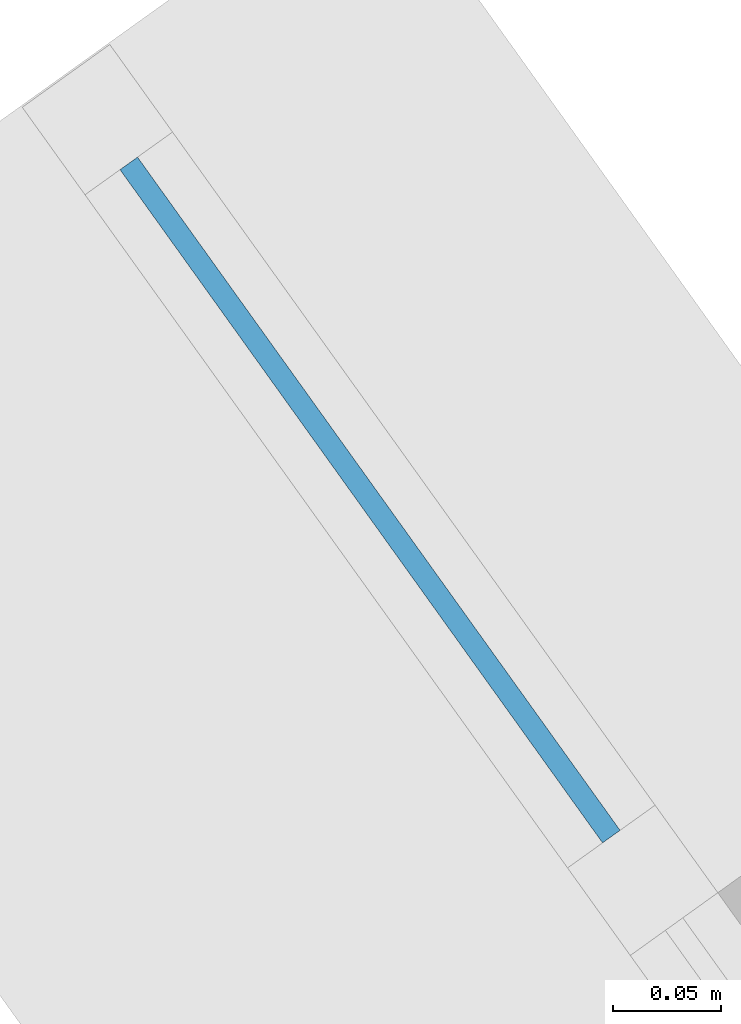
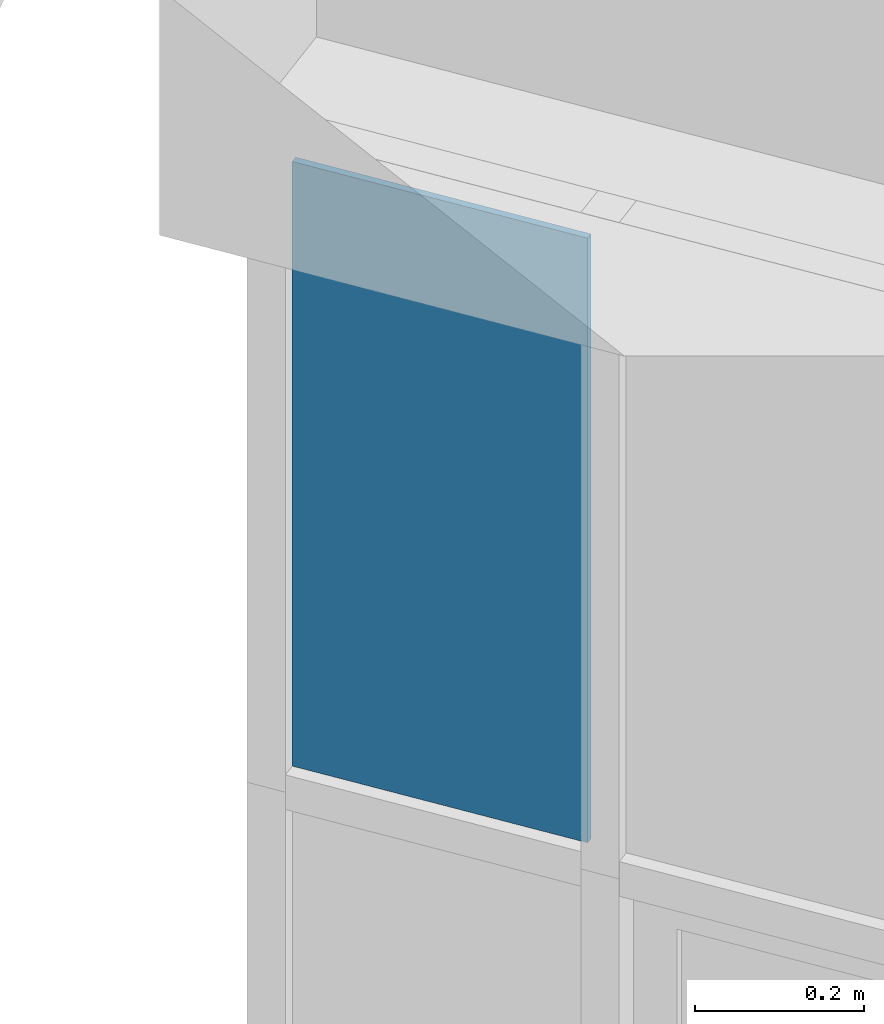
# One storey, part 10 of 24: 1 plate, 1 element without a shape of its own.
"""IFC2X3 building model written with IfcOpenShell, lengths in millimetres."""

from ifc_helpers import new_model, entity, si_unit, converted_unit, derived_unit, direction, frame, frame_2d, origin, place, context, subcontext, project, spatial, rectangle, extrude, source, transform, mapped, material, type_object, type_shapes, element, aggregate, save


model = new_model("IFC2X3")

# Units and contexts
model_context = context("Model", 3, precision=0.01, world=origin(), true_north=direction((6.123031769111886e-17, 1.0)))
body_context = subcontext(model_context, "Body", "Model", "MODEL_VIEW")
ifc_project = project(units=[si_unit("LENGTHUNIT", "METRE", prefix="MILLI"), si_unit("AREAUNIT", "SQUARE_METRE"), si_unit("VOLUMEUNIT", "CUBIC_METRE"), converted_unit("PLANEANGLEUNIT", "DEGREE", entity("IfcRatioMeasure", 0.017453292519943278), si_unit("PLANEANGLEUNIT", "RADIAN"), dimensions=[0, 0, 0, 0, 0, 0, 0]), si_unit("MASSUNIT", "GRAM", prefix="KILO"), derived_unit("MASSDENSITYUNIT", [(si_unit("MASSUNIT", "GRAM", prefix="KILO"), 1), (si_unit("LENGTHUNIT", "METRE"), -3)]), derived_unit("MOMENTOFINERTIAUNIT", [(si_unit("LENGTHUNIT", "METRE"), 4)]), si_unit("TIMEUNIT", "SECOND"), si_unit("FREQUENCYUNIT", "HERTZ"), si_unit("THERMODYNAMICTEMPERATUREUNIT", "DEGREE_CELSIUS"), derived_unit("THERMALTRANSMITTANCEUNIT", [(si_unit("MASSUNIT", "GRAM", prefix="KILO"), 1), (si_unit("THERMODYNAMICTEMPERATUREUNIT", "KELVIN"), -1), (si_unit("TIMEUNIT", "SECOND"), -3)]), derived_unit("THERMALCONDUCTANCEUNIT", [(si_unit("MASSUNIT", "GRAM", prefix="KILO"), 1), (si_unit("LENGTHUNIT", "METRE"), 1), (si_unit("THERMODYNAMICTEMPERATUREUNIT", "KELVIN"), -1), (si_unit("TIMEUNIT", "SECOND"), -3)]), derived_unit("VOLUMETRICFLOWRATEUNIT", [(si_unit("LENGTHUNIT", "METRE"), 3), (si_unit("TIMEUNIT", "SECOND"), -1)]), derived_unit("MASSFLOWRATEUNIT", [(si_unit("MASSUNIT", "GRAM", prefix="KILO"), 1), (si_unit("TIMEUNIT", "SECOND"), -1)]), derived_unit("ROTATIONALFREQUENCYUNIT", [(si_unit("TIMEUNIT", "SECOND"), -1)]), si_unit("ELECTRICCURRENTUNIT", "AMPERE"), si_unit("ELECTRICVOLTAGEUNIT", "VOLT"), si_unit("POWERUNIT", "WATT"), converted_unit("FORCEUNIT", "KIP", entity("IfcRatioMeasure", 2.088543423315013e-05), si_unit("FORCEUNIT", "NEWTON"), dimensions=[1, 1, -2, 0, 0, 0, 0]), si_unit("ILLUMINANCEUNIT", "LUX"), si_unit("LUMINOUSFLUXUNIT", "LUMEN"), si_unit("LUMINOUSINTENSITYUNIT", "CANDELA"), derived_unit("USERDEFINED", [(si_unit("MASSUNIT", "GRAM", prefix="KILO"), -1), (si_unit("LENGTHUNIT", "METRE"), -2), (si_unit("TIMEUNIT", "SECOND"), 3), (si_unit("LUMINOUSFLUXUNIT", "LUMEN"), 1)]), derived_unit("USERDEFINED", [(si_unit("MASSUNIT", "GRAM", prefix="KILO"), 1), (si_unit("LENGTHUNIT", "METRE"), 3), (si_unit("TIMEUNIT", "SECOND"), -3), (si_unit("ELECTRICCURRENTUNIT", "AMPERE"), -2)]), derived_unit("USERDEFINED", [(si_unit("LENGTHUNIT", "METRE"), 2), (si_unit("TIMEUNIT", "SECOND"), -2)]), derived_unit("SOUNDPOWERUNIT", [(si_unit("MASSUNIT", "GRAM", prefix="KILO"), 1), (si_unit("LENGTHUNIT", "METRE"), 2), (si_unit("TIMEUNIT", "SECOND"), -3)]), derived_unit("SOUNDPRESSUREUNIT", [(si_unit("MASSUNIT", "GRAM", prefix="KILO"), 1), (si_unit("LENGTHUNIT", "METRE"), -1), (si_unit("TIMEUNIT", "SECOND"), -2)]), derived_unit("LINEARVELOCITYUNIT", [(si_unit("LENGTHUNIT", "METRE"), 1), (si_unit("TIMEUNIT", "SECOND"), -1)]), si_unit("PRESSUREUNIT", "PASCAL"), derived_unit("USERDEFINED", [(si_unit("LENGTHUNIT", "METRE"), -2), (si_unit("MASSUNIT", "GRAM", prefix="KILO"), 1), (si_unit("TIMEUNIT", "SECOND"), -2)]), derived_unit("LINEARFORCEUNIT", [(si_unit("MASSUNIT", "GRAM", prefix="KILO"), 1), (si_unit("LENGTHUNIT", "METRE"), 1), (si_unit("TIMEUNIT", "SECOND"), -2), (si_unit("LENGTHUNIT", "METRE"), -1)]), derived_unit("PLANARFORCEUNIT", [(si_unit("MASSUNIT", "GRAM", prefix="KILO"), 1), (si_unit("LENGTHUNIT", "METRE"), 1), (si_unit("TIMEUNIT", "SECOND"), -2), (si_unit("LENGTHUNIT", "METRE"), -2)]), derived_unit("SPECIFICHEATCAPACITYUNIT", [(si_unit("LENGTHUNIT", "METRE"), 2), (si_unit("TIMEUNIT", "SECOND"), -2), (si_unit("THERMODYNAMICTEMPERATUREUNIT", "KELVIN"), -1)]), derived_unit("VAPORPERMEABILITYUNIT", [(si_unit("TIMEUNIT", "SECOND"), 1), (si_unit("LENGTHUNIT", "METRE"), -1)]), derived_unit("DYNAMICVISCOSITYUNIT", [(si_unit("MASSUNIT", "GRAM", prefix="KILO"), 1), (si_unit("LENGTHUNIT", "METRE"), -1), (si_unit("TIMEUNIT", "SECOND"), -1)]), derived_unit("THERMALEXPANSIONCOEFFICIENTUNIT", [(si_unit("THERMODYNAMICTEMPERATUREUNIT", "KELVIN"), -1)])], contexts=[model_context])

# Site, building, storey
site_placement = place(None, frame((0.0, 0.0, 0.0), z_axis=(0.0, 0.0, 1.0), x_axis=(0.8191520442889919, 0.5735764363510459, 0.0)))
site = spatial("IfcSite", under=ifc_project, at=site_placement, Name="Default", CompositionType="ELEMENT")
building_placement = place(site_placement, origin())
building = spatial("IfcBuilding", under=site, at=building_placement, CompositionType="ELEMENT")
storey_placement = place(building_placement, frame((0.0, 0.0, -1150.0)))
storey = spatial("IfcBuildingStorey", under=building, at=storey_placement, Name="6.EG KH -1.15", CompositionType="ELEMENT", Elevation=-1150.0000000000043)

# Curtain wall, plate
curtain_wall_type = type_object("IfcCurtainWallType", Name="Curtain Wall:Curtain_Wall_CJC_ENTR_KH", PredefinedType="NOTDEFINED")
curtain_wall_placement = place(storey_placement, frame((0.0, 0.0, 1150.0)))
curtain_wall = element("IfcCurtainWall", 1, at=curtain_wall_placement, inside=storey, type_object=curtain_wall_type, Name="Curtain Wall:Curtain_Wall_CJC_ENTR_KH", ObjectType="Curtain Wall:Curtain_Wall_CJC_ENTR_KH")
ifc_material = material(Name="Glass")
plate_type = type_object("IfcPlateType", Name="System Panel:Glazed_CJC", PredefinedType="CURTAIN_PANEL", material=ifc_material)
shared_shape = source(origin(), body_context, "Body", "SweptSolid", [
    extrude(rectangle(XDim=10.0, YDim=384.58849077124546, at=frame_2d((0.0, 4.249045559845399e-12), x_axis=(1.0, 0.0))), frame((0.0, 0.0, 0.0), z_axis=(0.0, 0.0, 1.0), x_axis=(0.0, 1.0, 0.0)), (0.0, 0.0, 1.0), 874.9999999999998),
])
type_shapes(plate_type, [shared_shape])
plate_placement = place(curtain_wall_placement, frame((-189146.59202353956, 192660.50947043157, 1025.0), z_axis=(0.0, 0.0, 1.0), x_axis=(-0.011082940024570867, 0.999938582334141, 0.0)))
plate = element("IfcPlate", 2, at=plate_placement, type_object=plate_type, material=ifc_material, Name="System Panel:Glazed_CJC", ObjectType="System Panel:Glazed_CJC", context=body_context, shape_type="MappedRepresentation", body=[
    mapped(shared_shape, transform((0.0, 0.0, 0.0), scale=1.0)),
])
aggregate(curtain_wall, [plate])

save(model, "model.ifc")
